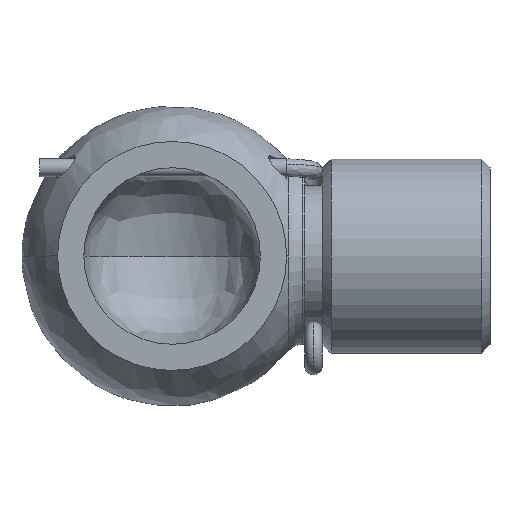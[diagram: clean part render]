
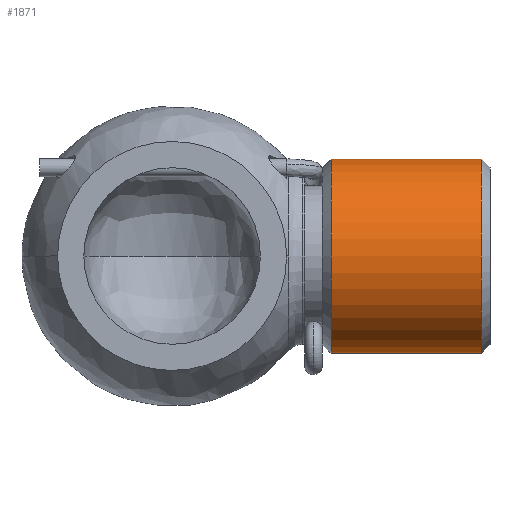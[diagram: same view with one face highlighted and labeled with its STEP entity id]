
A CAD part, top view. The second image highlights one B-rep face of the part: STEP entity #1871.
In plain terms, the highlighted cylindrical face has radius 5.5 mm (diameter 11 mm), a partial arc.
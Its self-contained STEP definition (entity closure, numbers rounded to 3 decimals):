
#75 = ORIENTED_EDGE ( 'NONE', *, *, #765, .T. ) ;
#142 = LINE ( 'NONE', #294, #1907 ) ;
#254 = AXIS2_PLACEMENT_3D ( 'NONE', #2032, #587, #1061 ) ;
#265 = CARTESIAN_POINT ( 'NONE',  ( 18., 5.94, 0.051 ) ) ;
#294 = CARTESIAN_POINT ( 'NONE',  ( 18., -5.06, 0.051 ) ) ;
#310 = FACE_OUTER_BOUND ( 'NONE', #1036, .T. ) ;
#449 = DIRECTION ( 'NONE',  ( 1., 0., 0. ) ) ;
#518 = CIRCLE ( 'NONE', #577, 5.5 ) ;
#557 = CYLINDRICAL_SURFACE ( 'NONE', #254, 5.5 ) ;
#576 = CARTESIAN_POINT ( 'NONE',  ( 17.5, 0.44, 0.051 ) ) ;
#577 = AXIS2_PLACEMENT_3D ( 'NONE', #576, #889, #2038 ) ;
#587 = DIRECTION ( 'NONE',  ( -1., 0., 0. ) ) ;
#765 = EDGE_CURVE ( 'NONE', #1621, #1176, #1081, .T. ) ;
#852 = VERTEX_POINT ( 'NONE', #1082 ) ;
#889 = DIRECTION ( 'NONE',  ( -1., 0., 0. ) ) ;
#936 = DIRECTION ( 'NONE',  ( -1., 0., 0. ) ) ;
#1036 = EDGE_LOOP ( 'NONE', ( #1630, #2022, #1974, #75 ) ) ;
#1061 = DIRECTION ( 'NONE',  ( 0., 1., 0. ) ) ;
#1081 = CIRCLE ( 'NONE', #1190, 5.5 ) ;
#1082 = CARTESIAN_POINT ( 'NONE',  ( 17.5, 5.94, 0.051 ) ) ;
#1146 = CARTESIAN_POINT ( 'NONE',  ( 17.5, -5.06, 0.051 ) ) ;
#1176 = VERTEX_POINT ( 'NONE', #1914 ) ;
#1190 = AXIS2_PLACEMENT_3D ( 'NONE', #1553, #449, #1905 ) ;
#1412 = EDGE_CURVE ( 'NONE', #1617, #852, #518, .T. ) ;
#1422 = VECTOR ( 'NONE', #1586, 1000. ) ;
#1553 = CARTESIAN_POINT ( 'NONE',  ( 9., 0.44, 0.051 ) ) ;
#1586 = DIRECTION ( 'NONE',  ( -1., 0., 0. ) ) ;
#1617 = VERTEX_POINT ( 'NONE', #1146 ) ;
#1621 = VERTEX_POINT ( 'NONE', #1972 ) ;
#1630 = ORIENTED_EDGE ( 'NONE', *, *, #2001, .F. ) ;
#1871 = ADVANCED_FACE ( 'NONE', ( #310 ), #557, .T. ) ;
#1877 = LINE ( 'NONE', #265, #1422 ) ;
#1905 = DIRECTION ( 'NONE',  ( 0., -1., 0. ) ) ;
#1907 = VECTOR ( 'NONE', #936, 1000. ) ;
#1913 = EDGE_CURVE ( 'NONE', #852, #1621, #1877, .T. ) ;
#1914 = CARTESIAN_POINT ( 'NONE',  ( 9., -5.06, 0.051 ) ) ;
#1972 = CARTESIAN_POINT ( 'NONE',  ( 9., 5.94, 0.051 ) ) ;
#1974 = ORIENTED_EDGE ( 'NONE', *, *, #1913, .T. ) ;
#2001 = EDGE_CURVE ( 'NONE', #1617, #1176, #142, .T. ) ;
#2022 = ORIENTED_EDGE ( 'NONE', *, *, #1412, .T. ) ;
#2032 = CARTESIAN_POINT ( 'NONE',  ( 18., 0.44, 0.051 ) ) ;
#2038 = DIRECTION ( 'NONE',  ( 0., -1., 0. ) ) ;
